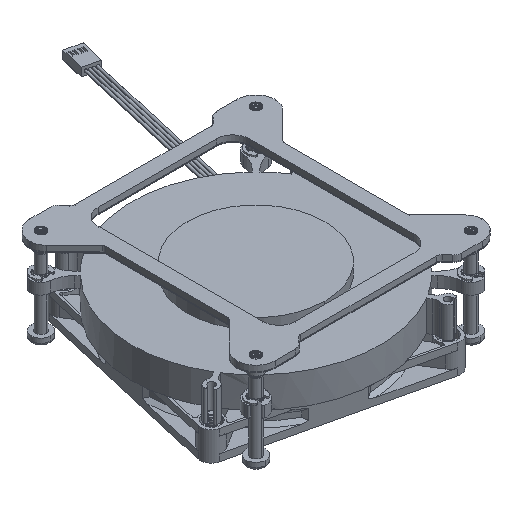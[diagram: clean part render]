
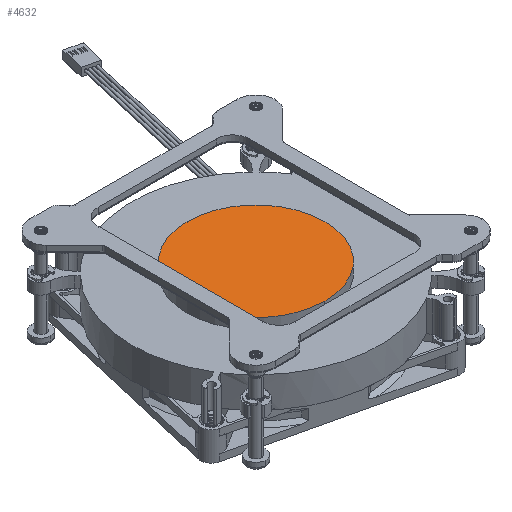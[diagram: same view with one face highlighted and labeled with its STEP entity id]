
A CAD part, isometric view. The second image highlights one B-rep face of the part: STEP entity #4632.
In plain terms, the highlighted planar face has unit normal (0, 0, 1) as drawn and (0, -1, 0) by its records, which use the part's own axes.
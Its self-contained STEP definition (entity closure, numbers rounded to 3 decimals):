
#4513=CARTESIAN_POINT('',(0.,0.,0.));
#4514=DIRECTION('',(0.,1.,0.));
#4515=DIRECTION('',(0.,0.,-1.));
#4516=AXIS2_PLACEMENT_3D('',#4513,#4514,#4515);
#4518=CARTESIAN_POINT('',(0.,0.,0.));
#4519=DIRECTION('',(0.,1.,0.));
#4520=DIRECTION('',(0.,0.,1.));
#4521=AXIS2_PLACEMENT_3D('',#4518,#4519,#4520);
#4535=CARTESIAN_POINT('',(0.,0.,25.));
#4536=VERTEX_POINT('',#4535);
#4537=CARTESIAN_POINT('',(0.,0.,-25.));
#4538=VERTEX_POINT('',#4537);
#4623=CARTESIAN_POINT('',(0.,0.,0.));
#4624=DIRECTION('',(0.,1.,0.));
#4625=DIRECTION('',(0.,0.,1.));
#4626=AXIS2_PLACEMENT_3D('',#4623,#4624,#4625);
#4627=PLANE('',#4626);
#4628=ORIENTED_EDGE('',*,*,#4602,.T.);
#4629=ORIENTED_EDGE('',*,*,#4617,.T.);
#4630=EDGE_LOOP('',(#4628,#4629));
#4631=FACE_OUTER_BOUND('',#4630,.F.);
#4632=ADVANCED_FACE('',(#4631),#4627,.F.);
#4517=CIRCLE('',#4516,25.);
#4522=CIRCLE('',#4521,25.);
#4602=EDGE_CURVE('',#4538,#4536,#4517,.T.);
#4617=EDGE_CURVE('',#4536,#4538,#4522,.T.);
